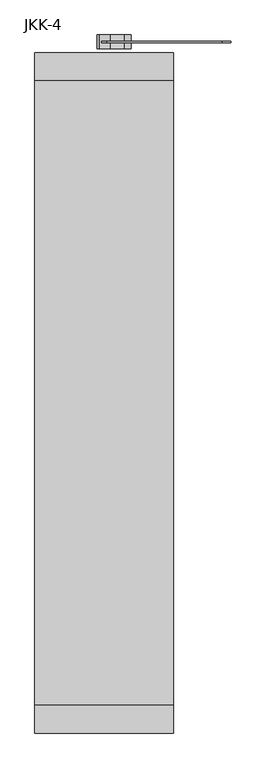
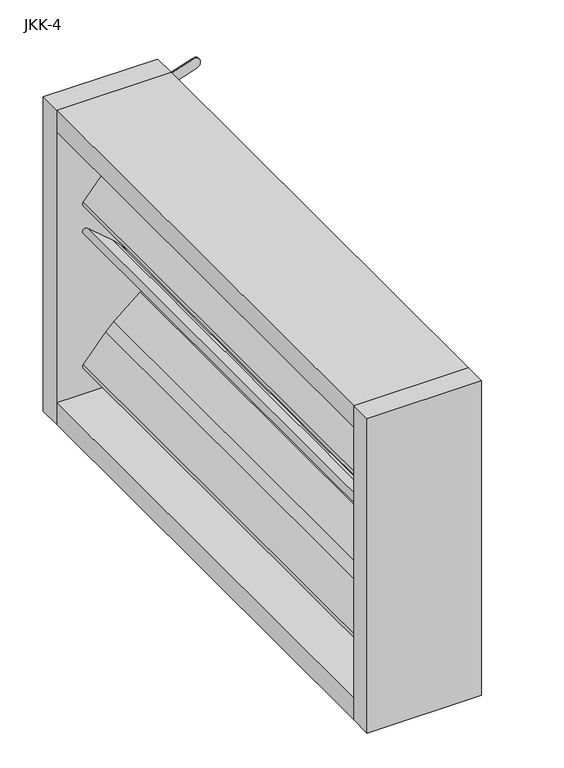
"""IFC4 building model written with IfcOpenShell, lengths in millimetres: air terminal geometry, DUA_UN_Volume control valve_SMA : JKK-4."""

from ifc_helpers import new_model, si_unit, point, frame, frame_2d, origin, place, context, project, spatial, polyline, circle_curve, trimmed, segment, composite_curve, outline, extrude, source, transform, mapped, element, save


def jkk_4_09f567d1(model_context):
    return source(origin(), model_context, "Body", "SweptSolid", [
        extrude(outline(composite_curve([segment(trimmed(circle_curve(frame_2d((-199.4973372, -49.5093744)), 4.999996), [point((-195.9610744, -53.0441736))], [point((-203.049648, -45.990703))], False, "CARTESIAN"), True, "CONTINUOUS"), segment(polyline([(-203.049648, -45.990703), (-164.1419286, -0.0115618), (-150.0154442, 14.1149226), (-104.0373356, 53.0217775)]), True, "CONTINUOUS"), segment(trimmed(circle_curve(frame_2d((-100.5024002, 49.4856706)), 4.999982), [point((-104.0373356, 53.0217775))], [point((-96.9828624, 45.934238))], False, "CARTESIAN"), True, "CONTINUOUS"), segment(polyline([(-96.9828624, 45.934238), (-135.85495, -0.0087421), (-150.0154442, -14.1692364), (-195.9610744, -53.0441736)]), True, "CONTINUOUS")], self_intersect=False)), frame((0.0, -450.0, 0.0), z_axis=(0.0, 1.0, 0.0), x_axis=(0.0, 0.0, 1.0)), (0.0, 0.0, 1.0), 900.0),
        extrude(outline(composite_curve([segment(trimmed(circle_curve(frame_2d((-49.5010629, 49.4683527)), 4.999996), [point((-53.0358621, 45.9320899))], [point((-45.9823915, 53.0206634))], False, "CARTESIAN"), True, "CONTINUOUS"), segment(polyline([(-45.9823915, 53.0206634), (-0.0032503, 14.1129441), (14.1232341, -0.0135403), (53.030089, -45.9916489)]), True, "CONTINUOUS"), segment(trimmed(circle_curve(frame_2d((49.4939821, -49.5265843)), 4.999982), [point((53.030089, -45.9916489))], [point((45.9425495, -53.0461222))], False, "CARTESIAN"), True, "CONTINUOUS"), segment(polyline([(45.9425495, -53.0461222), (-0.0004306, -14.1740346), (-14.1609249, -0.0135403), (-53.0358621, 45.9320899)]), True, "CONTINUOUS")], self_intersect=False)), frame((0.0, -450.0, 0.0), z_axis=(0.0, 1.0, 0.0), x_axis=(0.0, 0.0, 1.0)), (0.0, 0.0, 1.0), 900.0),
        extrude(outline(composite_curve([segment(trimmed(circle_curve(frame_2d((100.5026628, -49.5093744)), 4.999996), [point((104.0389256, -53.0441736))], [point((96.950352, -45.990703))], False, "CARTESIAN"), True, "CONTINUOUS"), segment(polyline([(96.950352, -45.990703), (135.8580714, -0.0115618), (149.9845558, 14.1149226), (195.9626644, 53.0217775)]), True, "CONTINUOUS"), segment(trimmed(circle_curve(frame_2d((199.4975998, 49.4856706)), 4.999982), [point((195.9626644, 53.0217775))], [point((203.0171376, 45.934238))], False, "CARTESIAN"), True, "CONTINUOUS"), segment(polyline([(203.0171376, 45.934238), (164.14505, -0.0087421), (149.9845558, -14.1692364), (104.0389256, -53.0441736)]), True, "CONTINUOUS")], self_intersect=False)), frame((0.0, -450.0, 0.0), z_axis=(0.0, 1.0, 0.0), x_axis=(0.0, 0.0, 1.0)), (0.0, 0.0, 1.0), 900.0),
        extrude(outline(composite_curve([segment(trimmed(circle_curve(frame_2d((174.9998951, 3.37e-05)), 73.9999961), [point((101.0141641, 1.4529722))], [point((158.3475382, 72.1020339))], False, "CARTESIAN"), True, "CONTINUOUS"), segment(trimmed(circle_curve(frame_2d((174.9999252, 7.85e-05)), 73.9999593), [point((158.3475382, 72.1020339))], [point((195.3314783, 71.1521826))], False, "CARTESIAN"), True, "CONTINUOUS"), segment(trimmed(circle_curve(frame_2d((174.999942, 7.97e-05)), 73.9999535), [point((195.3314783, 71.1521826))], [point((217.3121424, 60.7098055))], False, "CARTESIAN"), True, "CONTINUOUS"), segment(trimmed(circle_curve(frame_2d((214.423097, 56.6289407)), 5.0000041), [point((217.3121424, 60.7098055))], [point((219.1782961, 55.0835858))], False, "CARTESIAN"), True, "CONTINUOUS"), segment(polyline([(219.1782961, 55.0835858), (198.6084915, -8.2240179)]), True, "CONTINUOUS"), segment(trimmed(circle_curve(frame_2d((174.9999455, 7.2e-05)), 24.999982), [point((198.6084915, -8.2240179))], [point((167.7775519, -23.9339233))], False, "CARTESIAN"), True, "CONTINUOUS"), segment(polyline([(167.7775519, -23.9339233), (104.4687904, -3.3638083)]), True, "CONTINUOUS"), segment(trimmed(circle_curve(frame_2d((106.0138985, 1.3915564)), 5.0000852), [point((104.4687904, -3.3638083))], [point((101.6828691, -1.1070505))], False, "CARTESIAN"), True, "CONTINUOUS"), segment(trimmed(circle_curve(frame_2d((106.0138508, 1.3915954)), 5.0000634), [point((101.6828691, -1.1070505))], [point((101.0141641, 1.4529722))], False, "CARTESIAN"), True, "CONTINUOUS")], self_intersect=False)), frame((0.0, 456.0, 0.0), z_axis=(0.0, 1.0, 0.0), x_axis=(0.0, 0.0, 1.0)), (0.0, 0.0, 1.0), 9.75),
        extrude(outline(composite_curve([segment(trimmed(circle_curve(frame_2d((246.9708598, 172.9759519)), 10.0000277), [point((237.4737686, 176.1073753))], [point((256.4813972, 169.8856071))], False, "CARTESIAN"), True, "CONTINUOUS"), segment(polyline([(256.4813972, 169.8856071), (202.4022232, 3.451257)]), True, "CONTINUOUS"), segment(trimmed(circle_curve(frame_2d((192.8916535, 6.5416224)), 10.0000648), [point((202.4022232, 3.451257))], [point((183.3810801, 9.6319767))], False, "CARTESIAN"), True, "CONTINUOUS"), segment(polyline([(183.3810801, 9.6319767), (237.4737686, 176.1073753)]), True, "CONTINUOUS")], self_intersect=False)), frame((0.0, 504.514826, 0.0), z_axis=(0.0, 1.0, 0.0), x_axis=(0.0, 0.0, 1.0)), (0.0, 0.0, 1.0), 1.999998),
        extrude(outline(composite_curve([segment(trimmed(circle_curve(frame_2d((165.5858895, 44.639254)), 16.325228), [point((150.3081252, 38.8857344))], [point((166.2660419, 28.3282006))], True, "CARTESIAN"), True, "CONTINUOUS"), segment(trimmed(circle_curve(frame_2d((181.1379625, 21.59359)), 16.325716), [point((166.2660419, 28.3282006))], [point((170.0844243, 9.5790864))], True, "CARTESIAN"), True, "CONTINUOUS"), segment(trimmed(circle_curve(frame_2d((175.8382695, -5.698817)), 16.325473), [point((170.0844243, 9.5790864))], [point((159.5269565, -6.3786224))], True, "CARTESIAN"), True, "CONTINUOUS"), segment(trimmed(circle_curve(frame_2d((152.7929305, -21.250889)), 16.32579), [point((159.5269565, -6.3786224))], [point((140.7778563, -10.1978618))], True, "CARTESIAN"), True, "CONTINUOUS"), segment(trimmed(circle_curve(frame_2d((125.4999815, -15.951088)), 16.325228), [point((140.7778563, -10.1978618))], [point((124.8198297, 0.3599654))], True, "CARTESIAN"), True, "CONTINUOUS"), segment(trimmed(circle_curve(frame_2d((109.9479095, 7.094577)), 16.325716), [point((124.8198297, 0.3599654))], [point((121.0013641, 19.1091574))], True, "CARTESIAN"), True, "CONTINUOUS"), segment(trimmed(circle_curve(frame_2d((115.2476015, 34.387092)), 16.325473), [point((121.0013641, 19.1091574))], [point((131.5589131, 35.066933))], True, "CARTESIAN"), True, "CONTINUOUS"), segment(trimmed(circle_curve(frame_2d((138.2933025, 49.939035)), 16.32579), [point((131.5589131, 35.066933))], [point((150.3081252, 38.8857344))], True, "CARTESIAN"), True, "CONTINUOUS")], self_intersect=False)), frame((0.0, 495.514832, 0.0), z_axis=(0.0, 1.0, 0.0), x_axis=(0.0, 0.0, 1.0)), (0.0, 0.0, 1.0), 19.999986),
        extrude(outline(polyline([(100.0, 490.0), (100.0, 450.0), (-100.0, 450.0), (-100.0, 490.0), (100.0, 490.0)])), frame((0.0, 0.0, -290.0), z_axis=(0.0, 0.0, 1.0), x_axis=(1.0, 0.0, 0.0)), (0.0, 0.0, 1.0), 580.0),
        extrude(outline(polyline([(100.0, -490.0), (-100.0, -490.0), (-100.0, -450.0), (100.0, -450.0), (100.0, -490.0)])), frame((0.0, 0.0, -290.0), z_axis=(0.0, 0.0, 1.0), x_axis=(1.0, 0.0, 0.0)), (0.0, 0.0, 1.0), 580.0),
        extrude(outline(polyline([(-100.0, 450.0), (100.0, 450.0), (100.0, -450.0), (-100.0, -450.0), (-100.0, 450.0)])), frame((0.0, 0.0, -290.000246), z_axis=(0.0, 0.0, 1.0), x_axis=(1.0, 0.0, 0.0)), (0.0, 0.0, 1.0), 40.000246),
        extrude(outline(polyline([(-100.0, 450.0), (100.0, 450.0), (100.0, -450.0), (-100.0, -450.0), (-100.0, 450.0)])), frame((0.0, 0.0, 250.0), z_axis=(0.0, 0.0, 1.0), x_axis=(1.0, 0.0, 0.0)), (0.0, 0.0, 1.0), 39.999971),
    ])


if __name__ == "__main__":
    model = new_model("IFC4")
    model_context = context("Model", 3, world=origin())
    ifc_project = project(units=[si_unit("LENGTHUNIT", "METRE", prefix="MILLI")], contexts=[model_context])
    site = spatial("IfcSite", under=ifc_project)
    building = spatial("IfcBuilding", under=site)
    placement = place(None, origin())
    jkk_4_shape = jkk_4_09f567d1(model_context)
    element("IfcAirTerminal", 1, ObjectType="DUA_UN_Volume control valve_SMA : JKK-4", at=placement, inside=building, context=model_context, shape_type="MappedRepresentation", body=[
        mapped(jkk_4_shape, transform((0.0, 0.0, 0.0), x_axis=(1.0, 0.0, 0.0), y_axis=(0.0, 1.0, 0.0), z_axis=(0.0, 0.0, 1.0))),
    ])
    save(model, "model.ifc")
